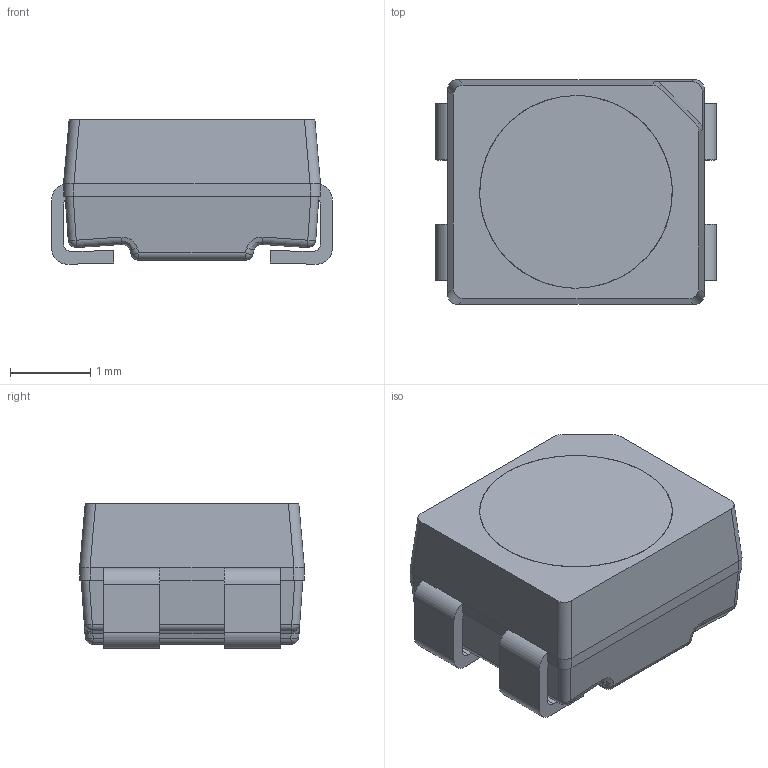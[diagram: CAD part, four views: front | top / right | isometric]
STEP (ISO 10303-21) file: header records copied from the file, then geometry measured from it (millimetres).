
FILE_DESCRIPTION (( 'STEP AP214' ), '1' );
FILE_NAME ('LDB.STEP', '2024-03-03T18:22:43', ( '' ), ( '' ), 'SwSTEP 2.0', 'SolidWorks 2022', '' );
FILE_SCHEMA (( 'AUTOMOTIVE_DESIGN' ));
Length unit declared in the file: millimetre
Products named in the file (1): LDB
Bounding box: 3.5 x 2.8 x 1.8 mm (x, y, z)
Surface area: 84.9 mm2 (no closed solid volume)
Topology: 0 solids, 5 shells, 390 faces, 1089 edges, 703 vertices
Faces by surface type: cylinder 188, plane 177, sphere 9, cone 8, bspline 4, torus 4
Entity records: 17256 total; most frequent: CARTESIAN_POINT 2629, DIRECTION 2191, ORIENTED_EDGE 2174, EDGE_CURVE 1089, AXIS2_PLACEMENT_3D 757, VERTEX_POINT 703, VECTOR 677, LINE 677
